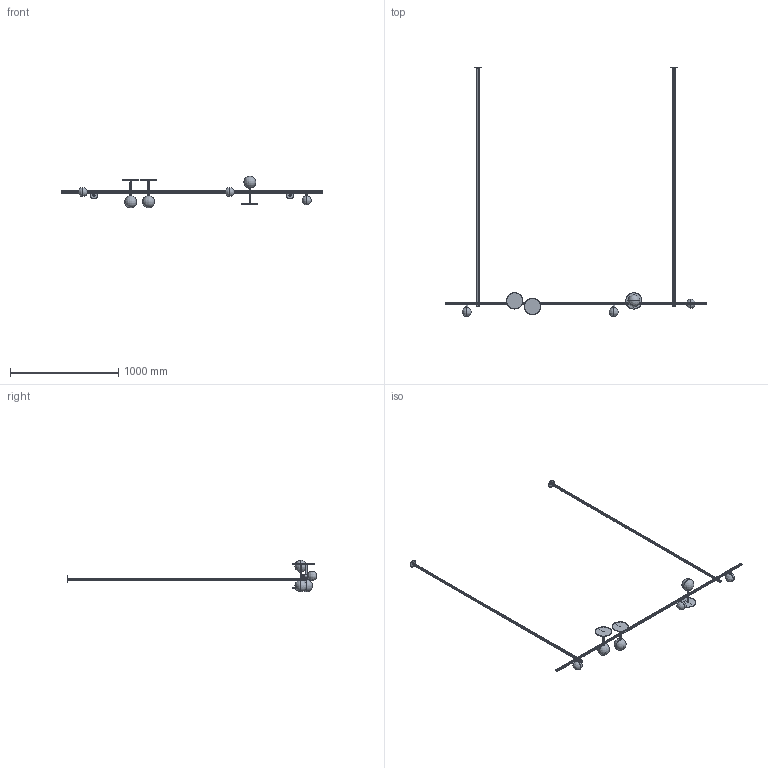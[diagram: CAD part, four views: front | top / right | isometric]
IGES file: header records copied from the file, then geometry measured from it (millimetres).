
Start section: SolidWorks IGES file using analytic representation for surfaces
Global section: file name: C:\Users\Joandita\Dropbox\Rakumba Marketing - Design\PRODUCT\TYPOGRAPHY\VELA\PRODUCT PHOTOGRAPHY\WORKING FILES\RENDERS\CAD\Lightweight\Chandelier Assembly\GANTRY B Lightweight.IGS; native system: SolidWorks 2017; preprocessor: SolidWorks 2017; author: Joandita; date: 210916.123004; units: millimetre
Bounding box: 2410 x 2301.33 x 290.53 mm (x, y, z)
Surface area: 1691777.8 mm2 (no closed solid volume)
Topology: 0 solids, 0 shells, 657 faces, 10030 edges, 10012 vertices
Faces by surface type: revolution 402, bspline 255
